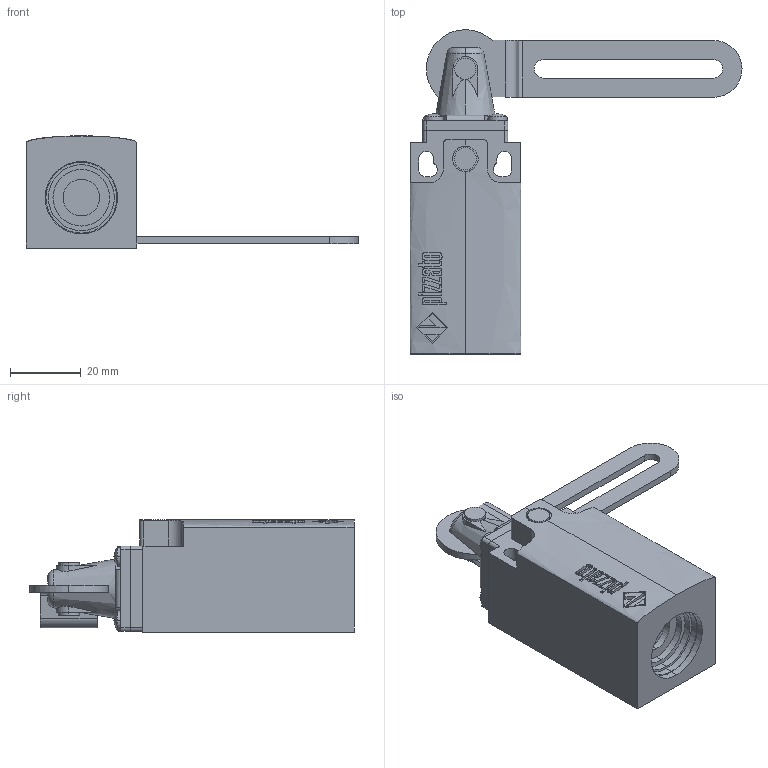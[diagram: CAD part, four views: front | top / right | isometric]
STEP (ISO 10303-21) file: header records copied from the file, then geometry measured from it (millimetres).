
FILE_DESCRIPTION (( 'STEP AP203' ), '1' );
FILE_NAME ('ZF_STEP_FR_xC1.STEP', '2024-02-26T08:48:54', ( '' ), ( '' ), 'SwSTEP 2.0', 'SolidWorks 2023', '' );
FILE_SCHEMA (( 'CONFIG_CONTROL_DESIGN' ));
Length unit declared in the file: millimetre
Products named in the file (6): ZF_STEP_FR_xC1; Pizzato_LEC1; Pizzato_Supporto_TECx; Pizzato_Custodia_FR_3dweb; ZF_STEP_VF_TEC1
Assembly tree (5 placements, depth 3):
  ZF_STEP_FR_xC1
    Pizzato_Custodia_FR_3dweb
      Pizzato_Custodia_FR_3dweb
    ZF_STEP_VF_TEC1
      Pizzato_Supporto_TECx
      Pizzato_LEC1
Bounding box: 93.6 x 91.37 x 31.6 mm (x, y, z)
Volume: 62020.7 mm3; surface area: 18006.1 mm2
Topology: 3 solids, 3 shells, 451 faces, 1193 edges, 791 vertices
Faces by surface type: plane 255, bspline 114, cylinder 69, sphere 8, torus 3, cone 2
Entity records: 18597 total; most frequent: CARTESIAN_POINT 7607, ORIENTED_EDGE 2386, DIRECTION 1723, EDGE_CURVE 1193, VERTEX_POINT 791, LINE 725, VECTOR 725, EDGE_LOOP 504
